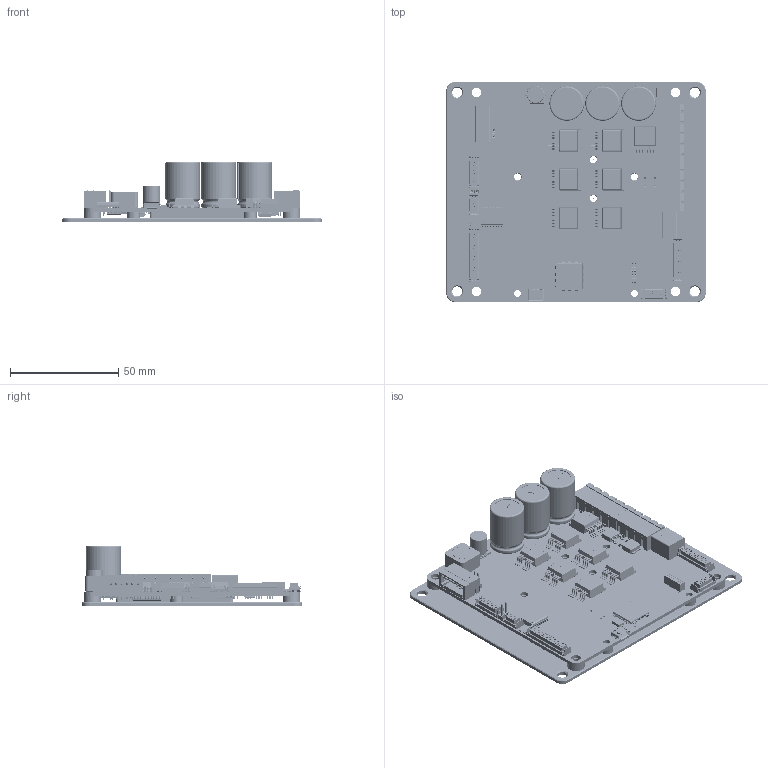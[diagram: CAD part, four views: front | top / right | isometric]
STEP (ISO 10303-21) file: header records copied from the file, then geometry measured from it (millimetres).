
FILE_DESCRIPTION(('FreeCAD Model'),'2;1');
FILE_NAME('C:/prj/JUP-XX80-X/JUP-2080-C-P.STEP','2019-03-17T20:14:22',( 'Author'),(''),'Open CASCADE STEP processor 7.2','FreeCAD','Unknown' );
FILE_SCHEMA(('AUTOMOTIVE_DESIGN { 1 0 10303 214 1 1 1 1 }'));
Length unit declared in the file: millimetre
Products named in the file (244): ColdPlate; i033_01H1_80V20A_; Boardi033-01H1; B1i033_01H1; _66629272; Sphere; B2i033_01H1; _66629392; Sphere_2; C108i033_01H1; C_16x21.5; C109i033_01H1; C_16x21.006; C110i033_01H1; C_16x21.007; C114i033_01H1; User_Library_ALU_F; User_Library-ALU-F_Pins_1; User_Library-ALU-F_K_X_F6rper_1; User_Library-ALU-F_Beschriftung_1; User_Library-ALU-F_Fuss_1; D25i033_01H1; LED_SMD0603; D27i033_01H1; LED_SMD0604; D44i033_01H1; User_Library-DO-214AC_SMA; D30i033_01H1; dpak_so369; D52i033_01H1; User_Library-DO-214AB_SMC; D54i033_01H1; User_Library-DO-214AB_SMC001; FD3i033_01H1; _50923048; Sphere_3; FD1i033_01H1; _50923048001; Sphere_004; FD2i033_01H1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
Assembly tree (242 placements, depth 4):
  ColdPlate
  i033_01H1_80V20A_
    Boardi033-01H1
    B1i033_01H1
      _66629272
        Sphere
    B2i033_01H1
      _66629392
        Sphere_2
    C108i033_01H1
      C_16x21.5
    C109i033_01H1
      C_16x21.006
    C110i033_01H1
      C_16x21.007
    C114i033_01H1
      User_Library_ALU_F
        User_Library-ALU-F_Pins_1
        User_Library-ALU-F_K_X_F6rper_1
        User_Library-ALU-F_Beschriftung_1
        User_Library-ALU-F_Fuss_1
    D25i033_01H1
      LED_SMD0603
    D27i033_01H1
      LED_SMD0604
    D44i033_01H1
      User_Library-DO-214AC_SMA
    D30i033_01H1
      dpak_so369
    D52i033_01H1
      User_Library-DO-214AB_SMC
    D54i033_01H1
      User_Library-DO-214AB_SMC001
    FD3i033_01H1
      _50923048
        Sphere_3
    FD1i033_01H1
      _50923048001
        Sphere_004
    FD2i033_01H1
      _50923048002
        Sphere_005
    FD10i033_01H1
      _35970248
        Sphere_4
    FD8i033_01H1
      _35970248001
        Sphere_006
    FD9i033_01H1
      _35970248002
        Sphere_007
    H1i033_01H1
      _66629032
        Sphere_5
    H10i033_01H1
      _66628912
        Sphere_6
    H9i033_01H1
      _64851744
        Sphere_7
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Bounding box: 120 x 102 x 28.13 mm (x, y, z)
Volume: 71881.8 mm3; surface area: 70512.9 mm2
Topology: 137 solids, 890 shells, 16375 faces, 73990 edges, 147407 vertices
Faces by surface type: plane 9015, cylinder 5095, torus 808, sphere 700, bspline 677, cone 62, revolution 18
Entity records: 1680649 total; most frequent: CARTESIAN_POINT 507540, DIRECTION 194541, LINE 116674, VECTOR 116674, ORIENTED_EDGE 83062, PCURVE 83062, DEFINITIONAL_REPRESENTATION 83062, EDGE_CURVE 43433
